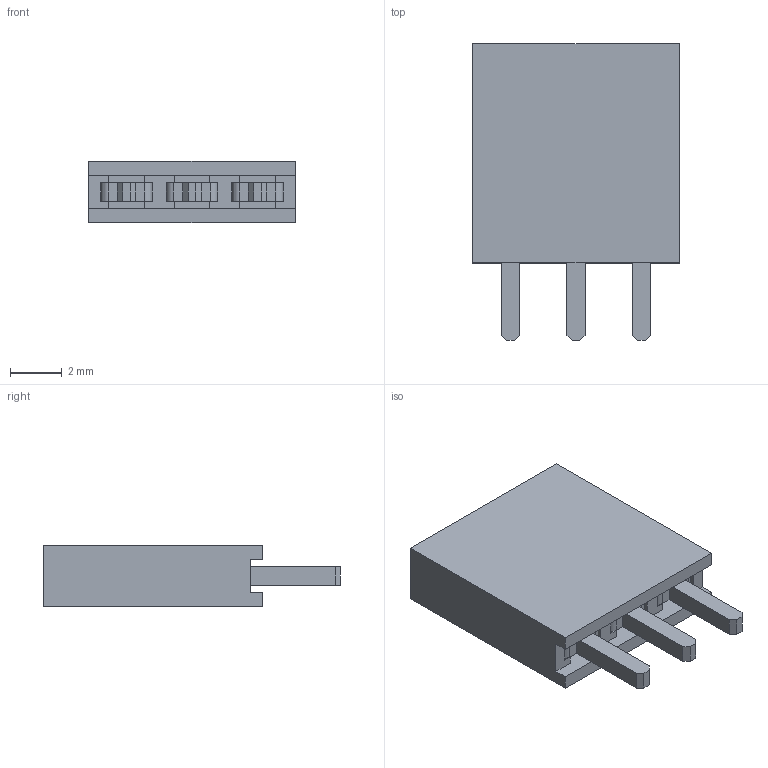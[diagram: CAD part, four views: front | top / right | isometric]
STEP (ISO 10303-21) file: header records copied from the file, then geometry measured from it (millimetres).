
FILE_DESCRIPTION (( 'STEP AP214' ), '1' );
FILE_NAME ('100mil Female Pin Header_3P_Wi.STEP', '2026-06-18T09:18:37', ( '' ), ( '' ), 'SwSTEP 2.0', 'SolidWorks 2024', '' );
FILE_SCHEMA (( 'AUTOMOTIVE_DESIGN' ));
Length unit declared in the file: millimetre
Products named in the file (1): 100mil Female Pin Header_3P_Wi
Bounding box: 8.02 x 11.5 x 2.4 mm (x, y, z)
Volume: 128.9 mm3; surface area: 485.9 mm2
Topology: 4 solids, 4 shells, 139 faces, 381 edges, 250 vertices
Faces by surface type: plane 109, cylinder 15, bspline 15
Entity records: 5615 total; most frequent: CARTESIAN_POINT 1398, ORIENTED_EDGE 762, DIRECTION 619, EDGE_CURVE 381, VECTOR 309, LINE 309, VERTEX_POINT 250, AXIS2_PLACEMENT_3D 155
